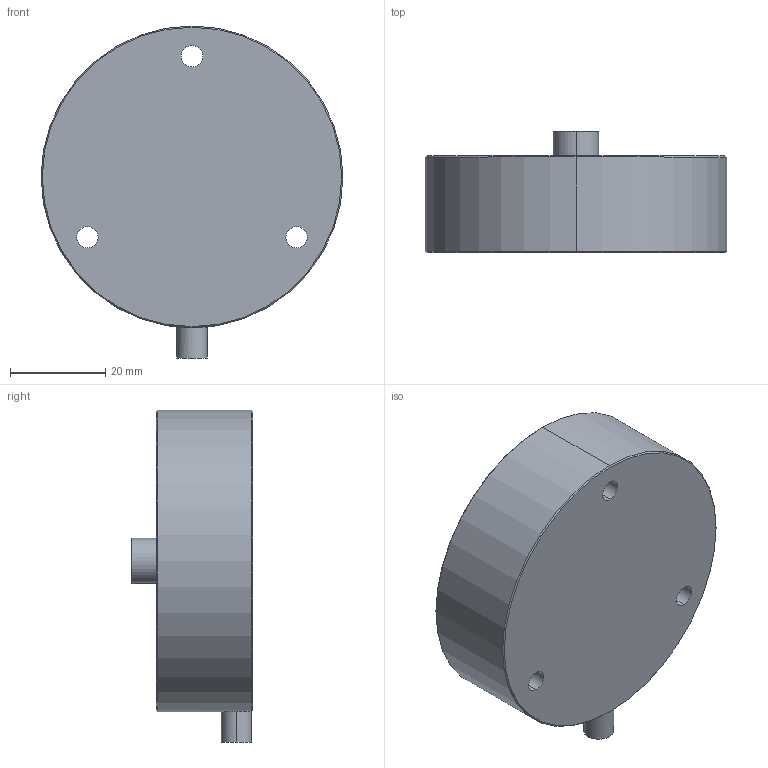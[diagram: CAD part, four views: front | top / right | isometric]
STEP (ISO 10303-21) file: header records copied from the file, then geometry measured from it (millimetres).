
FILE_DESCRIPTION (( 'STEP AP214' ), '1' );
FILE_NAME ('SS1175M-5KLB.STEP', '2024-08-19T13:52:52', ( '' ), ( '' ), 'SwSTEP 2.0', 'SolidWorks 2008', '' );
FILE_SCHEMA (( 'AUTOMOTIVE_DESIGN' ));
Length unit declared in the file: inch
Products named in the file (1): SS1175M-5KLB
Bounding box: 63.5 x 25.55 x 69.85 mm (x, y, z)
Volume: 63785 mm3; surface area: 11339.6 mm2
Topology: 1 solids, 1 shells, 27 faces, 62 edges, 38 vertices
Faces by surface type: cylinder 12, cone 10, plane 3, sphere 2
Entity records: 871 total; most frequent: CARTESIAN_POINT 196, DIRECTION 150, ORIENTED_EDGE 124, AXIS2_PLACEMENT_3D 64, EDGE_CURVE 62, VERTEX_POINT 38, CIRCLE 36, EDGE_LOOP 34
